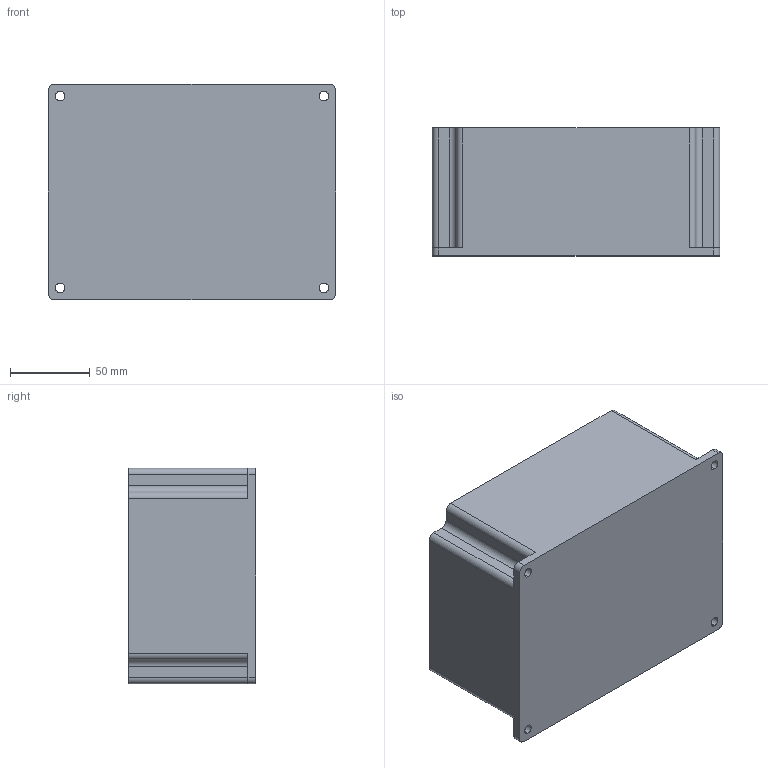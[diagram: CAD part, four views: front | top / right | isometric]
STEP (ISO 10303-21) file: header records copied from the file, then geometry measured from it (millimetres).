
FILE_DESCRIPTION (( 'STEP AP203' ), '1' );
FILE_NAME ('Mid Box Starter.STEP', '2018-02-21T22:31:26', ( '' ), ( '' ), 'SwSTEP 2.0', 'SolidWorks 2015', '' );
FILE_SCHEMA (( 'CONFIG_CONTROL_DESIGN' ));
Length unit declared in the file: inch
Products named in the file (1): Mid Box Starter
Bounding box: 180 x 80 x 135 mm (x, y, z)
Volume: 236611.1 mm3; surface area: 146227.8 mm2
Topology: 1 solids, 1 shells, 161 faces, 411 edges, 253 vertices
Faces by surface type: cylinder 83, plane 55, torus 19, bspline 4
Entity records: 5364 total; most frequent: CARTESIAN_POINT 1370, DIRECTION 843, ORIENTED_EDGE 814, EDGE_CURVE 407, AXIS2_PLACEMENT_3D 310, VERTEX_POINT 253, VECTOR 223, LINE 223
